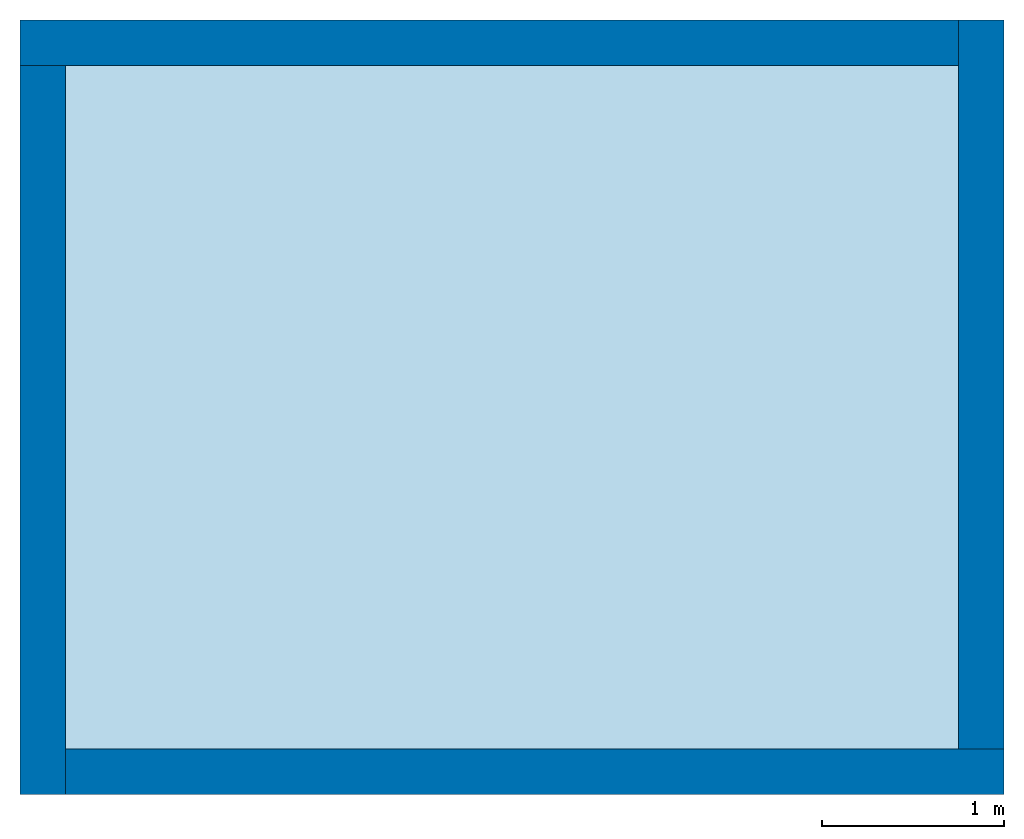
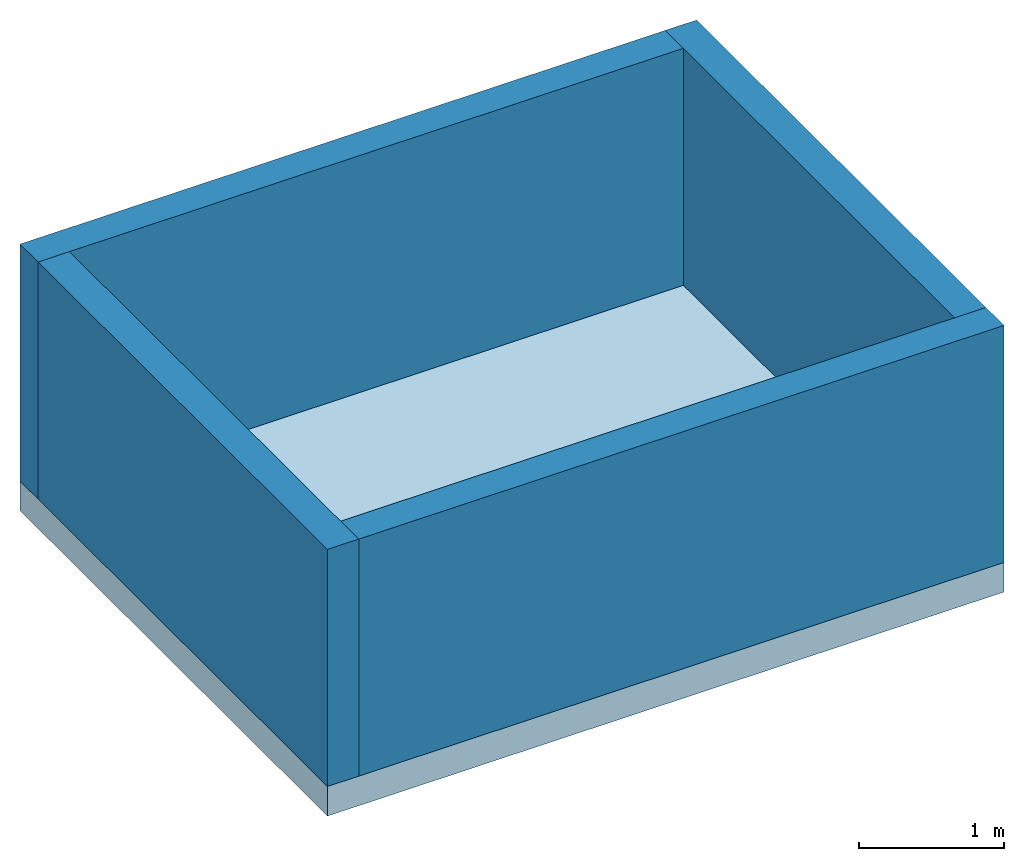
# One storey: 4 walls, 1 slab.
"""IFC2X3 building model written with IfcOpenShell, lengths in centimetres."""

from ifc_helpers import new_model, entity, si_unit, converted_unit, derived_unit, direction, frame, frame_2d, origin, place, context, subcontext, project, spatial, rectangle, extrude, material, layer, layer_set, layer_usage, type_object, element, save


model = new_model("IFC2X3")

# Units and contexts
model_context = context("Model", 3, precision=0.001, world=origin(), true_north=direction((6.12303176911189e-17, 1.0)))
body_context = subcontext(model_context, "Body", "Model", "MODEL_VIEW")
ifc_project = project(units=[si_unit("LENGTHUNIT", "METRE", prefix="CENTI"), si_unit("AREAUNIT", "SQUARE_METRE"), si_unit("VOLUMEUNIT", "CUBIC_METRE"), converted_unit("PLANEANGLEUNIT", "DEGREE", entity("IfcRatioMeasure", 0.0174532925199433), si_unit("PLANEANGLEUNIT", "RADIAN"), dimensions=[0, 0, 0, 0, 0, 0, 0]), si_unit("MASSUNIT", "GRAM", prefix="KILO"), derived_unit("MASSDENSITYUNIT", [(si_unit("MASSUNIT", "GRAM", prefix="KILO"), 1), (si_unit("LENGTHUNIT", "METRE"), -3)]), si_unit("TIMEUNIT", "SECOND"), si_unit("FREQUENCYUNIT", "HERTZ"), si_unit("THERMODYNAMICTEMPERATUREUNIT", "DEGREE_CELSIUS"), derived_unit("THERMALTRANSMITTANCEUNIT", [(si_unit("MASSUNIT", "GRAM", prefix="KILO"), 1), (si_unit("THERMODYNAMICTEMPERATUREUNIT", "KELVIN"), -1), (si_unit("TIMEUNIT", "SECOND"), -3)]), derived_unit("VOLUMETRICFLOWRATEUNIT", [(si_unit("LENGTHUNIT", "METRE"), 3), (si_unit("TIMEUNIT", "SECOND"), -1)]), si_unit("ELECTRICCURRENTUNIT", "AMPERE"), si_unit("ELECTRICVOLTAGEUNIT", "VOLT"), si_unit("POWERUNIT", "WATT"), si_unit("FORCEUNIT", "NEWTON", prefix="KILO"), si_unit("ILLUMINANCEUNIT", "LUX"), si_unit("LUMINOUSFLUXUNIT", "LUMEN"), si_unit("LUMINOUSINTENSITYUNIT", "CANDELA"), derived_unit("USERDEFINED", [(si_unit("MASSUNIT", "GRAM", prefix="KILO"), -1), (si_unit("LENGTHUNIT", "METRE"), -2), (si_unit("TIMEUNIT", "SECOND"), 3), (si_unit("LUMINOUSFLUXUNIT", "LUMEN"), 1)]), derived_unit("LINEARVELOCITYUNIT", [(si_unit("LENGTHUNIT", "METRE"), 1), (si_unit("TIMEUNIT", "SECOND"), -1)]), si_unit("PRESSUREUNIT", "PASCAL"), derived_unit("USERDEFINED", [(si_unit("LENGTHUNIT", "METRE"), -2), (si_unit("MASSUNIT", "GRAM", prefix="KILO"), 1), (si_unit("TIMEUNIT", "SECOND"), -2)])], contexts=[model_context])

# Site, building, storey
site_placement = place(None, origin())
site = spatial("IfcSite", under=ifc_project, at=site_placement, Name="Default", CompositionType="ELEMENT")
building_placement = place(site_placement, origin())
building = spatial("IfcBuilding", under=site, at=building_placement, CompositionType="ELEMENT")
storey_placement = place(building_placement, frame((0.0, 0.0, -200.0)))
storey = spatial("IfcBuildingStorey", under=building, at=storey_placement, Name="Niveau dessus pieux", CompositionType="ELEMENT", Elevation=-200.0)

# Slab
ifc_material_1 = material(Name="Béton, coulé sur place")
ifc_layer_1 = layer(ifc_material_1, 25.0)
ifc_layer_set_1 = layer_set([ifc_layer_1], Name="Sol:Béton - 250mm JBTP")
ifc_layer_usage_1 = layer_usage(ifc_layer_set_1, "AXIS3", "POSITIVE", 0.0)
slab_placement = place(storey_placement, origin())
element("IfcSlab", 1, at=slab_placement, inside=storey, material=ifc_layer_usage_1, Name="Sol:Béton - 250mm JBTP", ObjectType="Sol:Béton - 250mm JBTP", PredefinedType="FLOOR", context=body_context, shape_type="SweptSolid", body=[
    extrude(rectangle(XDim=425.0, YDim=539.999999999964, at=frame_2d((-5.6843418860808e-14, 0.0), x_axis=(1.0, 0.0))), frame((0.0, 1042.50000000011, 0.0), z_axis=(0.0, 0.0, -1.0), x_axis=(0.0, 1.0, 0.0)), (0.0, 0.0, 1.0), 25.0),
])

# Walls
ifc_material_2 = material(Name="Mur par défaut")
ifc_layer_2 = layer(ifc_material_2, 25.0)
ifc_layer_set_2 = layer_set([ifc_layer_2], Name="Mur de base:Voile béton ep. 25cm")
ifc_layer_usage_2 = layer_usage(ifc_layer_set_2, "AXIS2", "NEGATIVE", 12.5)
wall_type = type_object("IfcWallType", Name="Mur de base:Voile béton ep. 25cm", PredefinedType="NOTDEFINED", material=ifc_layer_set_2)
wall_1_placement = place(storey_placement, frame((-270.0, 1242.50000000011, 0.0)))
element("IfcWallStandardCase", 2, at=wall_1_placement, inside=storey, type_object=wall_type, material=ifc_layer_usage_2, Name="Mur de base:Voile béton ep. 25cm", ObjectType="Mur de base:Voile béton ep. 25cm", context=body_context, shape_type="SweptSolid", body=[
    extrude(rectangle(XDim=514.999999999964, YDim=24.9999999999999, at=frame_2d((257.499999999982, 0.0), x_axis=(-1.0, 0.0))), origin(), (0.0, 0.0, 1.0), 200.0),
])
ifc_layer_usage_3 = layer_usage(ifc_layer_set_2, "AXIS2", "NEGATIVE", 12.5)
wall_2_placement = place(storey_placement, frame((-257.499999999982, 830.0, 0.0), z_axis=(0.0, 0.0, 1.0), x_axis=(0.0, 1.0, 0.0)))
element("IfcWallStandardCase", 3, at=wall_2_placement, inside=storey, type_object=wall_type, material=ifc_layer_usage_3, Name="Mur de base:Voile béton ep. 25cm", ObjectType="Mur de base:Voile béton ep. 25cm", context=body_context, shape_type="SweptSolid", body=[
    extrude(rectangle(XDim=400.0, YDim=24.9999999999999, at=frame_2d((200.0, 0.0), x_axis=(-1.0, 0.0))), origin(), (0.0, 0.0, 1.0), 200.0),
])
ifc_layer_usage_4 = layer_usage(ifc_layer_set_2, "AXIS2", "NEGATIVE", 12.5)
wall_3_placement = place(storey_placement, frame((270.0, 842.500000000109, 0.0), z_axis=(0.0, 0.0, 1.0), x_axis=(-1.0, 0.0, 0.0)))
element("IfcWallStandardCase", 4, at=wall_3_placement, inside=storey, type_object=wall_type, material=ifc_layer_usage_4, Name="Mur de base:Voile béton ep. 25cm", ObjectType="Mur de base:Voile béton ep. 25cm", context=body_context, shape_type="SweptSolid", body=[
    extrude(rectangle(XDim=514.999999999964, YDim=24.9999999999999, at=frame_2d((257.499999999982, 0.0), x_axis=(-1.0, 0.0))), origin(), (0.0, 0.0, 1.0), 200.0),
])
ifc_layer_usage_5 = layer_usage(ifc_layer_set_2, "AXIS2", "NEGATIVE", 12.5)
wall_4_placement = place(storey_placement, frame((257.499999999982, 1255.0, 0.0), z_axis=(0.0, 0.0, 1.0), x_axis=(0.0, -1.0, 0.0)))
element("IfcWallStandardCase", 5, at=wall_4_placement, inside=storey, type_object=wall_type, material=ifc_layer_usage_5, Name="Mur de base:Voile béton ep. 25cm", ObjectType="Mur de base:Voile béton ep. 25cm", context=body_context, shape_type="SweptSolid", body=[
    extrude(rectangle(XDim=400.0, YDim=24.9999999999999, at=frame_2d((200.0, 0.0), x_axis=(-1.0, 0.0))), origin(), (0.0, 0.0, 1.0), 200.0),
])

save(model, "model.ifc")
